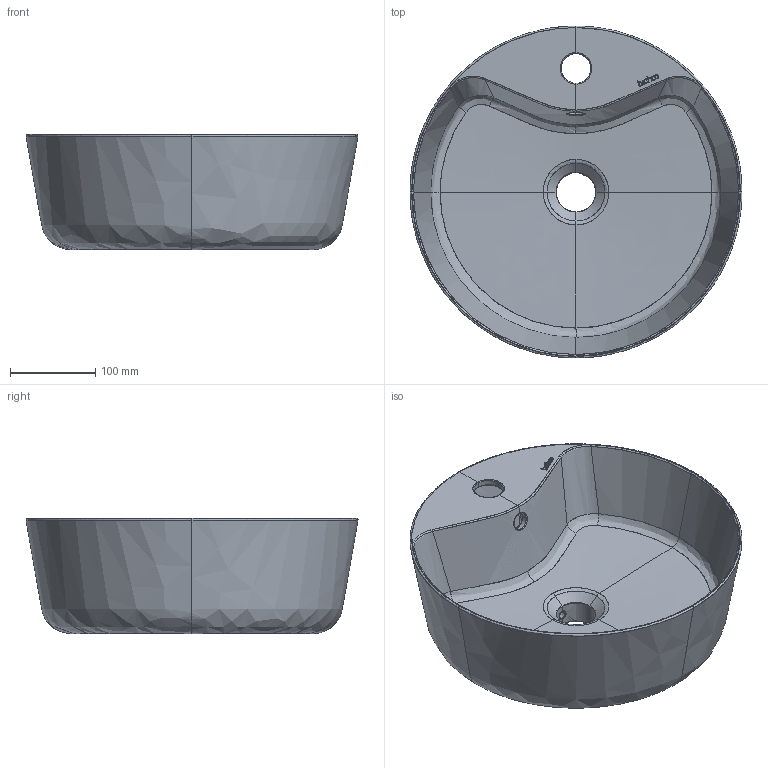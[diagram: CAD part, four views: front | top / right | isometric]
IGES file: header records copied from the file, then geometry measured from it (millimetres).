
Global section: file name: D:\Renovando Conceptos\Trabajos Varios\BathCo\47 Biblioteca Lavabos 3D\0040N_Viena\0040_VIENA.igs; native system: Rhinoceros ( May  7 2021 ); preprocessor: Trout Lake IGES 012 May  7 2021; date: 221214.130024; units: millimetre
Bounding box: 389.31 x 389.31 x 135.1 mm (x, y, z)
Surface area: 586656.5 mm2 (no closed solid volume)
Topology: 0 solids, 0 shells, 327 faces, 2821 edges, 2816 vertices
Faces by surface type: bspline 327
